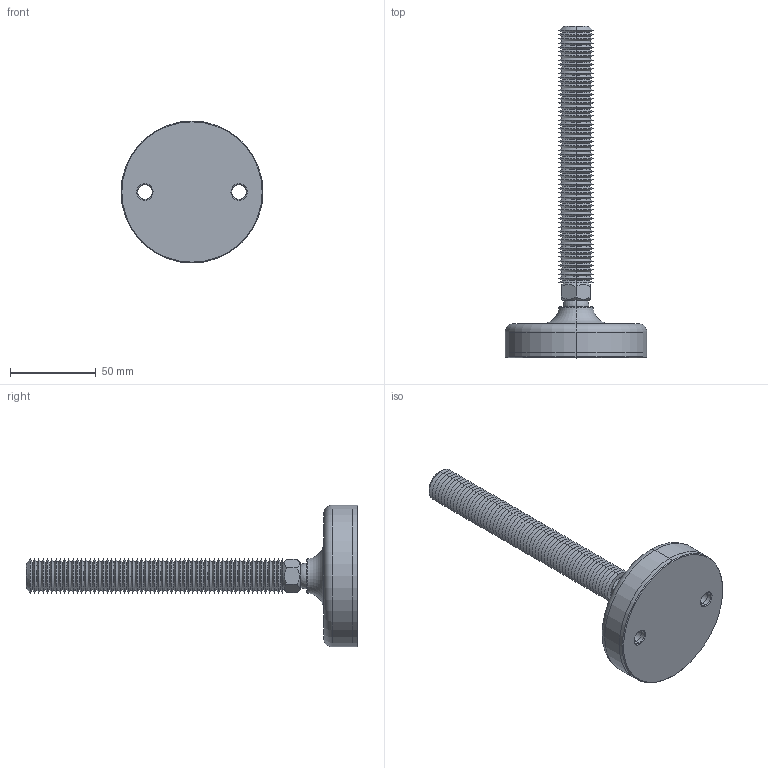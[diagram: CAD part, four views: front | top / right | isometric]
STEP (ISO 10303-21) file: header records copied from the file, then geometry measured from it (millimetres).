
FILE_DESCRIPTION (( 'STEP AP203' ), '1' );
FILE_NAME ('34724.W2003.step', '2019-11-28T22:16:17', ( '' ), ( '' ), 'SwSTEP 2.0', 'SolidWorks 2017', '' );
FILE_SCHEMA (( 'CONFIG_CONTROL_DESIGN' ));
Length unit declared in the file: millimetre
Products named in the file (4): Part2_34724.W2003; 34724.W2003; Part1_34724.W2003; Part3_34724.W2003
Assembly tree (3 placements, depth 2):
  34724.W2003
    Part1_34724.W2003
    Part2_34724.W2003
    Part3_34724.W2003
Bounding box: 83 x 194 x 83 mm (x, y, z)
Volume: 150029.8 mm3; surface area: 45634.9 mm2
Topology: 3 solids, 3 shells, 288 faces, 591 edges, 309 vertices
Faces by surface type: cone 254, plane 14, cylinder 12, sphere 4, torus 4
Entity records: 7862 total; most frequent: DIRECTION 1456, CARTESIAN_POINT 1328, ORIENTED_EDGE 1164, AXIS2_PLACEMENT_3D 592, EDGE_CURVE 582, VERTEX_POINT 304, EDGE_LOOP 300, CIRCLE 298
